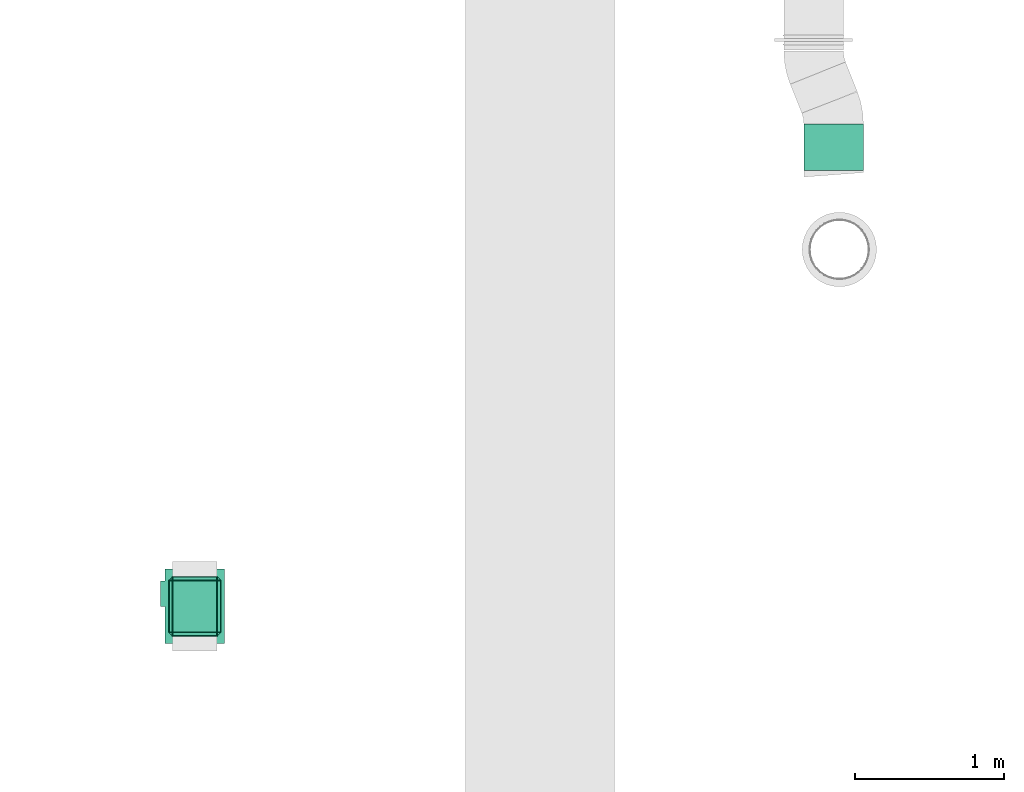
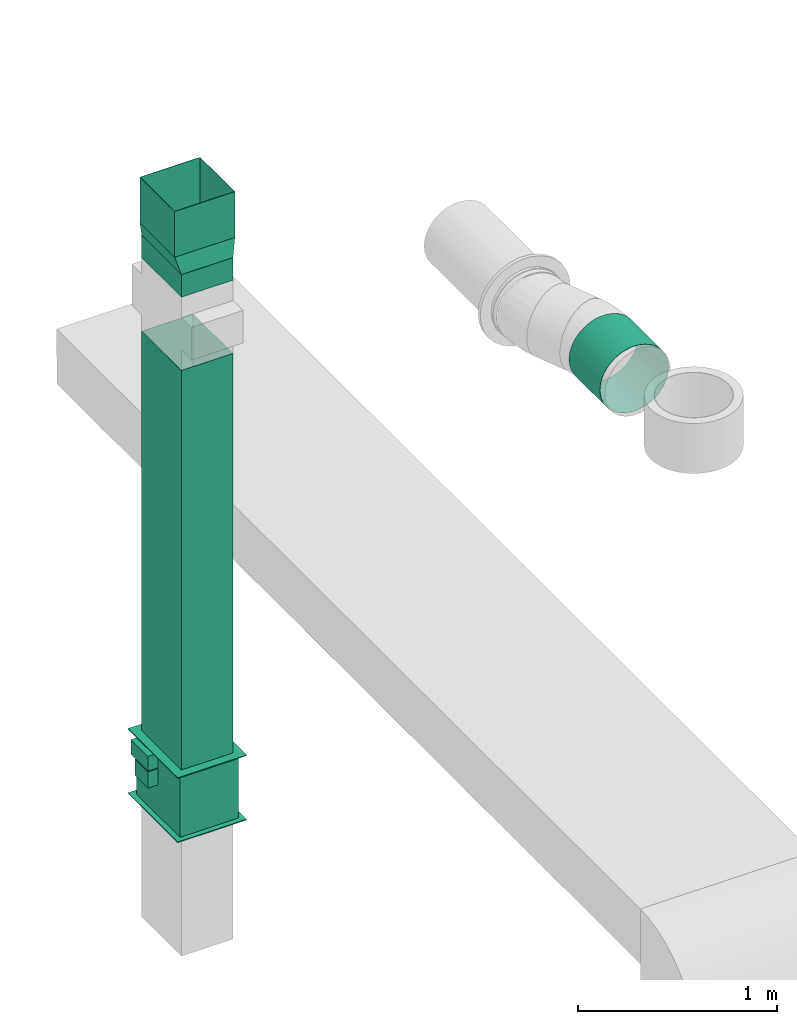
# One storey, part 7 of 14: 4 flow segments, 1 flow controller, 1 flow fitting.
"""IFC2X3 building model written with IfcOpenShell, lengths in millimetres."""

import ifcopenshell
import ifcopenshell.guid

model = None  # the IFC model being written
_history = None  # IfcOwnerHistory: only IFC2X3 demands one
_inside = {}  # id of a spatial element -> (the spatial element, [elements in it])
_under = {}  # id of a project, library or spatial element -> (it, [spatial elements below it])
_declared = {}  # id of a project -> (the project, [libraries it declares])
_typed = {}  # id of a type object -> (the type object, [elements of that type])
_made_of = {}  # id of a material, layer set ... -> (it, [elements and type objects made of it])


def new_model(schema):
    """Start an empty IFC model of exactly this schema.

    Asked for "IFC4X3", IfcOpenShell would pick the latest addendum, in which some entities
    have other attributes; the version numbers below select the first issue.
    IFC2X3 requires an IfcOwnerHistory on every rooted entity: one is made here for all.
    """
    global model, _history
    if schema == "IFC4X3":
        model = ifcopenshell.file(schema_version=(4, 3, 0, 0))
    else:
        model = ifcopenshell.file(schema=schema)
    _inside.clear()
    _under.clear()
    _declared.clear()
    _typed.clear()
    _made_of.clear()
    _history = None
    if model.schema == "IFC2X3":
        org = make("IfcOrganization", Name="unknown")
        user = make(
            "IfcPersonAndOrganization",
            ThePerson=make("IfcPerson", FamilyName="unknown"),
            TheOrganization=org,
        )
        app = make(
            "IfcApplication",
            ApplicationDeveloper=org,
            Version="unknown",
            ApplicationFullName="unknown",
            ApplicationIdentifier="unknown",
        )
        _history = make(
            "IfcOwnerHistory",
            OwningUser=user,
            OwningApplication=app,
            ChangeAction="ADDED",
            CreationDate=0,
        )
    return model


def make(cls, **values):
    """One entity of the class cls with the attributes given. An attribute that is None is left unset."""
    return model.create_entity(
        cls, **{name: value for name, value in values.items() if value is not None}
    )


def entity(cls, *values):
    """Any entity or typed value of the class cls, its attributes in the order of the schema. None: left unset."""
    e = model.create_entity(cls)
    for i, value in enumerate(values):
        if value is not None:
            e[i] = value
    return e


def rooted(cls, **values):
    """An entity with a GlobalId (a new one), such as an element, a storey or a relation."""
    return make(cls, GlobalId=ifcopenshell.guid.new(), OwnerHistory=_history, **values)


def si_unit(unit_type, name, prefix=None):
    """IfcSIUnit, for example si_unit("LENGTHUNIT", "METRE", prefix="MILLI")."""
    return make("IfcSIUnit", UnitType=unit_type, Prefix=prefix, Name=name)


def converted_unit(unit_type, name, factor, base, dimensions=None, offset=None):
    """IfcConversionBasedUnit, such as the inch: factor (a typed value) times the base unit."""
    return make(
        "IfcConversionBasedUnit"
        if offset is None
        else "IfcConversionBasedUnitWithOffset",
        ConversionOffset=offset,
        Dimensions=None
        if dimensions is None
        else entity("IfcDimensionalExponents", *dimensions),
        UnitType=unit_type,
        Name=name,
        ConversionFactor=make(
            "IfcMeasureWithUnit", ValueComponent=factor, UnitComponent=base
        ),
    )


def derived_unit(unit_type, elements):
    """IfcDerivedUnit: a product of units, each with its exponent."""
    return make(
        "IfcDerivedUnit",
        Elements=[
            make("IfcDerivedUnitElement", Unit=unit, Exponent=power)
            for unit, power in elements
        ],
        UnitType=unit_type,
    )


def assignment(units):
    """IfcUnitAssignment: the units of a project."""
    return None if units is None else make("IfcUnitAssignment", Units=units)


def point(xyz):
    """IfcCartesianPoint."""
    return None if xyz is None else make("IfcCartesianPoint", Coordinates=xyz)


def direction(xyz):
    """IfcDirection."""
    return None if xyz is None else make("IfcDirection", DirectionRatios=xyz)


def frame(location, z_axis=None, x_axis=None):
    """IfcAxis2Placement3D, a coordinate frame: its origin and axes. An axis left out is left unset."""
    return make(
        "IfcAxis2Placement3D",
        Location=point(location),
        Axis=direction(z_axis),
        RefDirection=direction(x_axis),
    )


def frame_2d(location, x_axis=None):
    """IfcAxis2Placement2D, a coordinate frame in the plane: its origin and x axis."""
    return make(
        "IfcAxis2Placement2D", Location=point(location), RefDirection=direction(x_axis)
    )


def origin_with_axes():
    """The frame at (0, 0, 0) with the z axis (0, 0, 1) and the x axis (1, 0, 0) written out."""
    return frame((0.0, 0.0, 0.0), z_axis=(0.0, 0.0, 1.0), x_axis=(1.0, 0.0, 0.0))


def origin_2d_with_axis():
    """The frame at (0, 0) in the plane with the x axis (1, 0) written out."""
    return frame_2d((0.0, 0.0), x_axis=(1.0, 0.0))


def place(relative_to, where):
    """IfcLocalPlacement: puts the frame where relative to a parent placement (None: the world)."""
    return make(
        "IfcLocalPlacement", PlacementRelTo=relative_to, RelativePlacement=where
    )


def context(
    kind, dimensions, precision=None, world=None, true_north=None, identifier=None
):
    """IfcGeometricRepresentationContext, for example the 3D "Model" context."""
    return make(
        "IfcGeometricRepresentationContext",
        ContextIdentifier=identifier,
        ContextType=kind,
        CoordinateSpaceDimension=dimensions,
        Precision=precision,
        WorldCoordinateSystem=world,
        TrueNorth=true_north,
    )


def subcontext(parent, identifier, kind, view, scale=None):
    """IfcGeometricRepresentationSubContext, for example "Body" below "Model"."""
    return make(
        "IfcGeometricRepresentationSubContext",
        ContextIdentifier=identifier,
        ContextType=kind,
        ParentContext=parent,
        TargetScale=scale,
        TargetView=view,
    )


def project(units=None, contexts=None):
    """IfcProject with its units and contexts."""
    return rooted(
        "IfcProject",
        Name="project",
        RepresentationContexts=contexts,
        UnitsInContext=assignment(units),
    )


def spatial(cls, under=None, at=None, **own):
    """A site, building, storey or space (cls), placed at a placement, below another one or the project."""
    s = rooted(cls, ObjectPlacement=at, **own)
    if under is not None:
        _under.setdefault(under.id(), (under, []))[1].append(s)
    return s


def profile(cls, at=None, kind="AREA", **sizes):
    """A parametric profile (cls). Its sizes go by their IFC names, for example OverallWidth=200.0."""
    return make(cls, ProfileType=kind, Position=at, **sizes)


def hollow_rectangle(**sizes):
    """IfcRectangleHollowProfileDef."""
    return profile("IfcRectangleHollowProfileDef", **sizes)


def hollow_circle(**sizes):
    """IfcCircleHollowProfileDef."""
    return profile("IfcCircleHollowProfileDef", **sizes)


def extrude(swept, where, along, depth):
    """IfcExtrudedAreaSolid: the profile swept, set in the frame where, extruded along a direction by depth."""
    return make(
        "IfcExtrudedAreaSolid",
        SweptArea=swept,
        Position=where,
        ExtrudedDirection=direction(along),
        Depth=depth,
    )


def faces_of(points, faces, orient=None, outer=None):
    """IfcFace entities. A face is a list of loops; a loop is a list of indices into points, from 0.

    orient and outer hold one flag for each loop. By default every Orientation is true, the
    first loop of a face is its IfcFaceOuterBound and the others are IfcFaceBound.
    """
    made = []
    for i, loops in enumerate(faces):
        bounds = []
        for j, loop in enumerate(loops):
            is_outer = j == 0 if outer is None else outer[i][j]
            bounds.append(
                make(
                    "IfcFaceOuterBound" if is_outer else "IfcFaceBound",
                    Bound=make("IfcPolyLoop", Polygon=[points[k] for k in loop]),
                    Orientation=True if orient is None else orient[i][j],
                )
            )
        made.append(make("IfcFace", Bounds=bounds))
    return made


def open_shell(faces, orient=None, outer=None):
    """The faces of one IfcOpenShell. surface_model builds it on its shared points."""
    return ("IfcOpenShell", faces, orient, outer)


def surface_model(cls, points, shells):
    """IfcFaceBasedSurfaceModel or IfcShellBasedSurfaceModel (cls): surfaces that need not close."""
    shared = [point(p) for p in points]
    made = [make(c, CfsFaces=faces_of(shared, fs, o, b)) for c, fs, o, b in shells]
    if cls == "IfcFaceBasedSurfaceModel":
        return make(cls, FbsmFaces=made)
    return make(cls, SbsmBoundary=made)


def shape(context_of_items, identifier, shape_type, items):
    """IfcShapeRepresentation: the items that make up one representation, for example the "Body"."""
    return make(
        "IfcShapeRepresentation",
        ContextOfItems=context_of_items,
        RepresentationIdentifier=identifier,
        RepresentationType=shape_type,
        Items=items,
    )


def source(mapping_origin, context_of_items, identifier, shape_type, items):
    """IfcRepresentationMap: a shape defined once, which mapped items show again and again."""
    return make(
        "IfcRepresentationMap",
        MappingOrigin=mapping_origin,
        MappedRepresentation=shape(context_of_items, identifier, shape_type, items),
    )


def transform(
    local_origin,
    x_axis=None,
    y_axis=None,
    z_axis=None,
    scale=None,
    scale2=None,
    scale3=None,
    uniform=True,
):
    """IfcCartesianTransformationOperator3D, or its non-uniform kind. x_axis, y_axis, z_axis: its Axis1, 2, 3."""
    if uniform:
        return make(
            "IfcCartesianTransformationOperator3D",
            Axis1=direction(x_axis),
            Axis2=direction(y_axis),
            LocalOrigin=point(local_origin),
            Scale=scale,
            Axis3=direction(z_axis),
        )
    return make(
        "IfcCartesianTransformationOperator3DnonUniform",
        Axis1=direction(x_axis),
        Axis2=direction(y_axis),
        LocalOrigin=point(local_origin),
        Scale=scale,
        Axis3=direction(z_axis),
        Scale2=scale2,
        Scale3=scale3,
    )


def mapped(mapping_source, mapping_target):
    """IfcMappedItem: shows the shape of a source again, moved by a transform."""
    return make(
        "IfcMappedItem", MappingSource=mapping_source, MappingTarget=mapping_target
    )


def made_of(thing, what):
    """Note that an element or type object is made of a material, layer set ...; save() writes the relation."""
    if what is not None:
        _made_of.setdefault(what.id(), (what, []))[1].append(thing)
    return thing


def type_object(cls, material=None, **own):
    """A type object (cls), such as IfcWallType, which elements share."""
    return made_of(rooted(cls, **own), material)


def element(
    cls,
    number,
    at=None,
    inside=None,
    cuts=None,
    type_object=None,
    material=None,
    context=None,
    identifier="Body",
    shape_type=None,
    held_by="IfcProductDefinitionShape",
    body=None,
    shapes=None,
    **own,
):
    """One element of the class cls, such as IfcWall. Its Tag is "e" and its number.

    at: its placement. inside: the storey or other place that contains it. cuts: it is an
    opening in that element (IfcRelVoidsElement). A single representation is given by context,
    identifier, shape_type and body (its items); several are given by shapes. held_by: the class
    of the entity that holds the representations. save() writes the other relations.
    """
    e = rooted(cls, Tag="e%d" % number, ObjectPlacement=at, **own)
    if body is not None:
        shapes = [shape(context, identifier, shape_type, body)]
    if shapes is not None:
        e.Representation = make(held_by, Representations=shapes)
    if inside is not None:
        _inside.setdefault(inside.id(), (inside, []))[1].append(e)
    if cuts is not None:
        rooted(
            "IfcRelVoidsElement", RelatingBuildingElement=cuts, RelatedOpeningElement=e
        )
    if type_object is not None:
        _typed.setdefault(type_object.id(), (type_object, []))[1].append(e)
    return made_of(e, material)


def aggregate(whole, parts):
    """IfcRelAggregates: a whole, such as a stair, and the parts it consists of."""
    return rooted("IfcRelAggregates", RelatingObject=whole, RelatedObjects=parts)


def save(model, path):
    """Write the relations noted so far, then the file.

    IfcRelAggregates (storeys below a building ...), IfcRelContainedInSpatialStructure (elements
    in a storey), IfcRelDefinesByType, IfcRelAssociatesMaterial and IfcRelDeclares: one each for
    every whole, place, type object, material and project.
    """
    for whole, parts in _under.values():
        aggregate(whole, parts)
    for where, things in _inside.values():
        rooted(
            "IfcRelContainedInSpatialStructure",
            RelatedElements=things,
            RelatingStructure=where,
        )
    for kind, things in _typed.values():
        rooted("IfcRelDefinesByType", RelatedObjects=things, RelatingType=kind)
    for what, things in _made_of.values():
        rooted("IfcRelAssociatesMaterial", RelatedObjects=things, RelatingMaterial=what)
    for by, libraries in _declared.values():
        rooted("IfcRelDeclares", RelatingContext=by, RelatedDefinitions=libraries)
    model.write(path)


model = new_model("IFC2X3")

# Units and contexts
model_context = context("Model", 3, precision=0.01, world=frame((0.0, 4.29681676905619e-09, 0.0)), true_north=direction((4.01073788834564e-13, 1.0)))
plan_context = context("Plan", 3, precision=0.01, world=frame((0.0, 4.29681676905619e-09, 0.0)), true_north=direction((4.01073788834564e-13, 1.0)))
body_context = subcontext(model_context, "Body", "Model", "MODEL_VIEW")
ifc_project = project(units=[converted_unit("PLANEANGLEUNIT", "DEGREE", entity("IfcPositiveLengthMeasure", 0.0174532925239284), si_unit("PLANEANGLEUNIT", "RADIAN"), dimensions=[0, 0, 0, 0, 0, 0, 0]), si_unit("AREAUNIT", "SQUARE_METRE"), si_unit("LENGTHUNIT", "METRE", prefix="MILLI"), si_unit("MASSUNIT", "GRAM", prefix="KILO"), si_unit("POWERUNIT", "WATT"), si_unit("PRESSUREUNIT", "PASCAL", prefix="KILO"), si_unit("FORCEUNIT", "NEWTON", prefix="KILO"), si_unit("ELECTRICVOLTAGEUNIT", "VOLT"), si_unit("ELECTRICCURRENTUNIT", "AMPERE"), si_unit("THERMODYNAMICTEMPERATUREUNIT", "DEGREE_CELSIUS"), si_unit("TIMEUNIT", "SECOND"), si_unit("VOLUMEUNIT", "CUBIC_METRE"), derived_unit("LINEARVELOCITYUNIT", [(si_unit("LENGTHUNIT", "METRE"), 1), (si_unit("TIMEUNIT", "SECOND"), -1)]), derived_unit("VOLUMETRICFLOWRATEUNIT", [(si_unit("VOLUMEUNIT", "CUBIC_METRE"), 1), (si_unit("TIMEUNIT", "SECOND"), -1)]), derived_unit("THERMALTRANSMITTANCEUNIT", [(si_unit("POWERUNIT", "WATT"), 1), (si_unit("THERMODYNAMICTEMPERATUREUNIT", "KELVIN"), -1), (si_unit("AREAUNIT", "SQUARE_METRE"), -1)]), derived_unit("SOUNDPRESSUREUNIT", [(si_unit("PRESSUREUNIT", "PASCAL"), 1)])], contexts=[model_context, plan_context])

# Site, building, storey
site_placement = place(None, frame((0.0, -4.29681676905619e-09, 0.0), z_axis=(0.0, 0.0, 1.0), x_axis=(1.0, 0.0, 0.0)))
site = spatial("IfcSite", under=ifc_project, at=site_placement, CompositionType="ELEMENT")
building_placement = place(site_placement, frame((0.0, 4.29681676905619e-09, 0.0), z_axis=(0.0, 0.0, 1.0), x_axis=(1.0, 0.0, 0.0)))
building = spatial("IfcBuilding", under=site, at=building_placement, Name="mc-building", CompositionType="ELEMENT")
storey_placement = place(building_placement, frame((0.0, 0.0, 205200.0), z_axis=(0.0, 0.0, 1.0), x_axis=(1.0, 0.0, 0.0)))
storey = spatial("IfcBuildingStorey", under=building, at=storey_placement, Name="Nivå D + 1,2 m", CompositionType="ELEMENT", Elevation=205200.0)

# Flow controller
damper_type = type_object("IfcDamperType", Name="PK-I-S-EI90S-300x400-DV9-T", PredefinedType="FIREDAMPER")
shared_shape_1 = source(origin_with_axes(), body_context, "Body", "SurfaceModel", [
    surface_model("IfcShellBasedSurfaceModel", [(-189.99999, -230.0, 0.0), (-189.99999, -230.0, -170.0), (-100.0, -230.0, -170.0), (-100.0, -230.0, 0.0), (-100.0, -170.0, 0.0), (-100.0, -170.0, -170.0), (-189.99999, -170.0, -170.0), (-189.99999, -170.0, 0.0), (200.0, -170.0, -220.0), (200.0, 170.0, -220.0), (200.0, 170.0, 220.0), (200.0, -170.0, 220.0), (-200.0, -170.0, 220.0), (-200.0, 170.0, 220.0), (-200.0, 170.0, -220.0), (-200.0, -170.0, -220.0), (195.0, -200.0, 250.0), (195.0, 200.0, 250.0), (195.0, -200.0, -250.0), (195.0, 200.0, -250.0), (200.0, -200.0, -250.0), (200.0, 200.0, -250.0), (200.0, -200.0, 250.0), (200.0, 200.0, 250.0), (-195.0, -200.0, -250.0), (-195.0, 200.0, -250.0), (-195.0, -200.0, 250.0), (-195.0, 200.0, 250.0), (-200.0, -200.0, 250.0), (-200.0, 200.0, 250.0), (-200.0, -200.0, -250.0), (-200.0, 200.0, -250.0), (-95.0, -230.0, 0.0), (-95.0, -230.0, -130.0), (5.0, -230.0, 0.0), (5.0, -230.0, -130.0), (5.0, -170.0, 0.0), (5.0, -170.0, -130.0), (-95.0, -170.0, 0.0), (-95.0, -170.0, -130.0)], [open_shell([[[0, 1, 2]], [[2, 3, 0]], [[4, 5, 6]], [[6, 7, 4]], [[6, 5, 2]], [[2, 1, 6]], [[7, 6, 1]], [[1, 0, 7]], [[4, 7, 0]], [[0, 3, 4]], [[5, 4, 3]], [[3, 2, 5]], [[8, 9, 10]], [[10, 11, 8]], [[12, 13, 14]], [[14, 15, 12]], [[10, 9, 13]], [[14, 13, 9]], [[11, 10, 13]], [[13, 12, 11]], [[8, 11, 15]], [[12, 15, 11]], [[9, 8, 15]], [[15, 14, 9]], [[16, 17, 18]], [[19, 18, 17]], [[20, 21, 22]], [[23, 22, 21]], [[23, 21, 19]], [[19, 17, 23]], [[22, 23, 17]], [[17, 16, 22]], [[20, 22, 16]], [[16, 18, 20]], [[21, 20, 18]], [[18, 19, 21]], [[24, 25, 26]], [[27, 26, 25]], [[28, 29, 30]], [[31, 30, 29]], [[27, 25, 31]], [[31, 29, 27]], [[26, 27, 29]], [[29, 28, 26]], [[24, 26, 28]], [[28, 30, 24]], [[25, 24, 30]], [[30, 31, 25]], [[32, 33, 34]], [[35, 34, 33]], [[36, 37, 38]], [[39, 38, 37]], [[39, 37, 33]], [[35, 33, 37]], [[38, 39, 33]], [[33, 32, 38]], [[36, 38, 34]], [[32, 34, 38]], [[37, 36, 34]], [[34, 35, 37]]])]),
])
flow_controller_placement = place(storey_placement, frame((325311.83391, 463035.01868, 4944.68763999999), z_axis=(0.0, -1.0, 0.0), x_axis=(0.0, 0.0, -1.0)))
element("IfcFlowController", 1, at=flow_controller_placement, inside=storey, type_object=damper_type, Name="PK-I-S-EI90S-300x400-DV9-T", context=body_context, shape_type="MappedRepresentation", body=[
    mapped(shared_shape_1, transform((0.0, 0.0, 0.0), scale=1.0)),
])

# Flow fitting
duct_fitting_type = type_object("IfcDuctFittingType", Name="magirect_reduction1_001", PredefinedType="TRANSITION")
shared_shape_2 = source(origin_with_axes(), body_context, "Body", "SurfaceModel", [
    surface_model("IfcShellBasedSurfaceModel", [(100.0, 175.0, 175.0), (100.0, -175.0, 175.0), (100.0, -175.0, -175.0), (100.0, 175.0, -175.0), (0.0, 150.0, 200.0), (0.0, 150.0, 0.0), (0.0, 0.0, 200.0), (0.0, -150.0, 0.0), (0.0, -150.0, 200.0), (0.0, 0.0, -200.0), (0.0, -150.0, -200.0), (0.0, 150.0, -200.0)], [open_shell([[[0, 1, 2]], [[2, 3, 0]], [[4, 5, 6]], [[7, 8, 6]], [[6, 5, 7]], [[9, 7, 5]], [[10, 7, 9]], [[9, 5, 11]], [[0, 6, 1]], [[8, 1, 6]], [[1, 8, 7]], [[7, 2, 1]], [[7, 10, 2]], [[2, 10, 9]], [[9, 3, 2]], [[9, 11, 3]], [[3, 11, 5]], [[5, 0, 3]], [[5, 4, 0]], [[0, 4, 6]]])]),
])
flow_fitting_placement = place(storey_placement, frame((325311.83391, 463035.01868, 8188.89999999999), z_axis=(0.0, -1.0, 0.0), x_axis=(0.0, 0.0, 1.0)))
element("IfcFlowFitting", 2, at=flow_fitting_placement, inside=storey, type_object=duct_fitting_type, Name="magirect_reduction1_001", context=body_context, shape_type="MappedRepresentation", body=[
    mapped(shared_shape_2, transform((0.0, 0.0, 0.0), scale=1.0)),
])

# Flow segments
duct_segment_type_1 = type_object("IfcDuctSegmentType", Name="1-REKT", PredefinedType="RIGIDSEGMENT")
shared_shape_3 = source(origin_with_axes(), body_context, "Body", "SweptSolid", [
    extrude(hollow_rectangle(XDim=300.0, YDim=400.0, WallThickness=2.0, at=origin_2d_with_axis()), frame((0.0, 0.0, 0.0), z_axis=(1.0, 0.0, 0.0), x_axis=(0.0, 1.0, 0.0)), (0.0, 0.0, 1.0), 138.9),
])
flow_segment_1_placement = place(storey_placement, frame((325311.83391, 463035.01868, 8050.0), z_axis=(0.0, -1.0, 0.0), x_axis=(0.0, 0.0, 1.0)))
element("IfcFlowSegment", 3, at=flow_segment_1_placement, inside=storey, type_object=duct_segment_type_1, Name="1-REKT", context=body_context, shape_type="MappedRepresentation", body=[
    mapped(shared_shape_3, transform((0.0, 0.0, 0.0), scale=1.0)),
])
shared_shape_4 = source(origin_with_axes(), body_context, "Body", "SweptSolid", [
    extrude(hollow_rectangle(XDim=300.0, YDim=400.0, WallThickness=2.0, at=origin_2d_with_axis()), frame((0.0, 0.0, 0.0), z_axis=(1.0, 0.0, 0.0), x_axis=(0.0, 1.0, 0.0)), (0.0, 0.0, 1.0), 2455.3),
])
flow_segment_2_placement = place(storey_placement, frame((325311.83391, 463035.01868, 5144.68763999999), z_axis=(0.0, -1.0, 0.0), x_axis=(0.0, 0.0, 1.0)))
element("IfcFlowSegment", 4, at=flow_segment_2_placement, inside=storey, type_object=duct_segment_type_1, Name="1-REKT", context=body_context, shape_type="MappedRepresentation", body=[
    mapped(shared_shape_4, transform((0.0, 0.0, 0.0), scale=1.0)),
])
shared_shape_5 = source(origin_with_axes(), body_context, "Body", "SweptSolid", [
    extrude(hollow_rectangle(XDim=350.0, YDim=350.0, WallThickness=2.0, at=origin_2d_with_axis()), frame((0.0, 0.0, 0.0), z_axis=(1.0, 0.0, 0.0), x_axis=(0.0, 1.0, 0.0)), (0.0, 0.0, 1.0), 281.2),
])
flow_segment_3_placement = place(storey_placement, frame((325311.83391, 463035.01868, 8288.89999999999), z_axis=(0.0, -1.0, 0.0), x_axis=(0.0, 0.0, 1.0)))
element("IfcFlowSegment", 5, at=flow_segment_3_placement, inside=storey, type_object=duct_segment_type_1, Name="1-REKT", context=body_context, shape_type="MappedRepresentation", body=[
    mapped(shared_shape_5, transform((0.0, 0.0, 0.0), scale=1.0)),
])
duct_segment_type_2 = type_object("IfcDuctSegmentType", Name="2 - Spiro kanaler, Forsinket stål", PredefinedType="RIGIDSEGMENT")
shared_shape_6 = source(origin_with_axes(), body_context, "Body", "SweptSolid", [
    extrude(hollow_circle(Radius=200.0, WallThickness=2.0, at=origin_2d_with_axis()), frame((0.0, 0.0, 0.0), z_axis=(1.0, 0.0, 0.0), x_axis=(0.0, 1.0, 0.0)), (0.0, 0.0, 1.0), 311.8),
])
flow_segment_4_placement = place(storey_placement, frame((329600.36748, 466273.53136, 4099.98340999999), z_axis=(0.0, 0.0, 1.0), x_axis=(0.0, -1.0, 0.0)))
element("IfcFlowSegment", 6, at=flow_segment_4_placement, inside=storey, type_object=duct_segment_type_2, Name="2 - Spiro kanaler, Forsinket stål", context=body_context, shape_type="MappedRepresentation", body=[
    mapped(shared_shape_6, transform((0.0, 0.0, 0.0), scale=1.0)),
])

save(model, "model.ifc")
